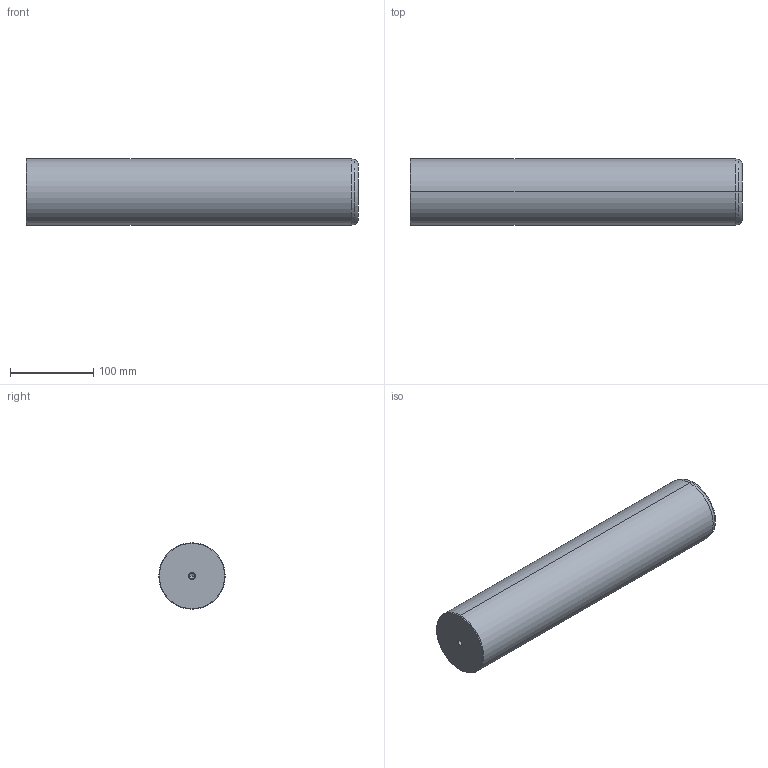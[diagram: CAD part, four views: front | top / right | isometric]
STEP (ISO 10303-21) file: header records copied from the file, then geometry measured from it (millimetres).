
FILE_DESCRIPTION(('CATIA V5 STEP Exchange'),'2;1');
FILE_NAME('C:\Users\Utente\Desktop\IO LAVORO\3D X SITO CF\X SITO\720\720-80x400.stp','2020-12-30T21:21:38+00:00',('none'),('none'),'CATIA Version 5 Release 20 GA (IN-10)','CATIA V5 STEP AP203','none');
FILE_SCHEMA(('CONFIG_CONTROL_DESIGN'));
Length unit declared in the file: millimetre
Products named in the file (1): 720-80x400
Bounding box: 400 x 80 x 80 mm (x, y, z)
Volume: 2006050.2 mm3; surface area: 110689.9 mm2
Topology: 1 solids, 1 shells, 22 faces, 62 edges, 40 vertices
Faces by surface type: cone 12, cylinder 6, plane 2, torus 2
Entity records: 806 total; most frequent: CARTESIAN_POINT 229, ORIENTED_EDGE 116, DIRECTION 93, EDGE_CURVE 58, AXIS2_PLACEMENT_3D 54, VERTEX_POINT 40, CIRCLE 31, EDGE_LOOP 24
